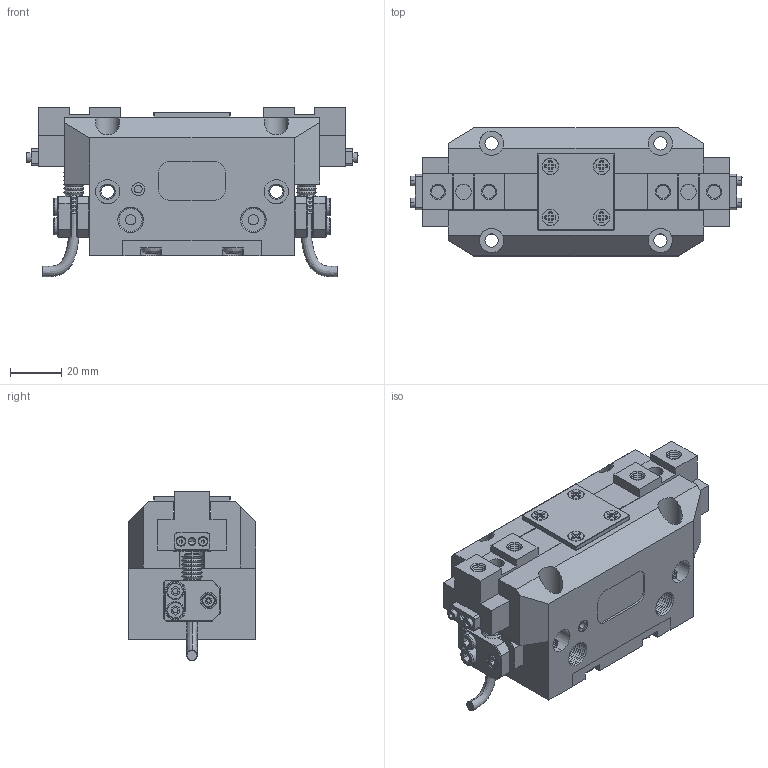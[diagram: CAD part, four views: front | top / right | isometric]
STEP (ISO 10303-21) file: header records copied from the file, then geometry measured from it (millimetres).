
FILE_DESCRIPTION (( 'STEP AP214' ), '1' );
FILE_NAME ('ST40.STEP', '2025-10-23T10:10:48', ( '' ), ( '' ), 'SwSTEP 2.0', 'SolidWorks 2024', '' );
FILE_SCHEMA (( 'AUTOMOTIVE_DESIGN' ));
Length unit declared in the file: millimetre
Products named in the file (1): ST40
Bounding box: 129.8 x 50 x 66.24 mm (x, y, z)
Volume: 205540.2 mm3; surface area: 73092 mm2
Topology: 39 solids, 39 shells, 2817 faces, 6449 edges, 3738 vertices
Faces by surface type: cone 1661, plane 564, cylinder 544, bspline 48
Entity records: 81094 total; most frequent: CARTESIAN_POINT 16972, DIRECTION 14190, ORIENTED_EDGE 12834, EDGE_CURVE 6417, AXIS2_PLACEMENT_3D 5586, VERTEX_POINT 3738, LINE 3018, VECTOR 3018
